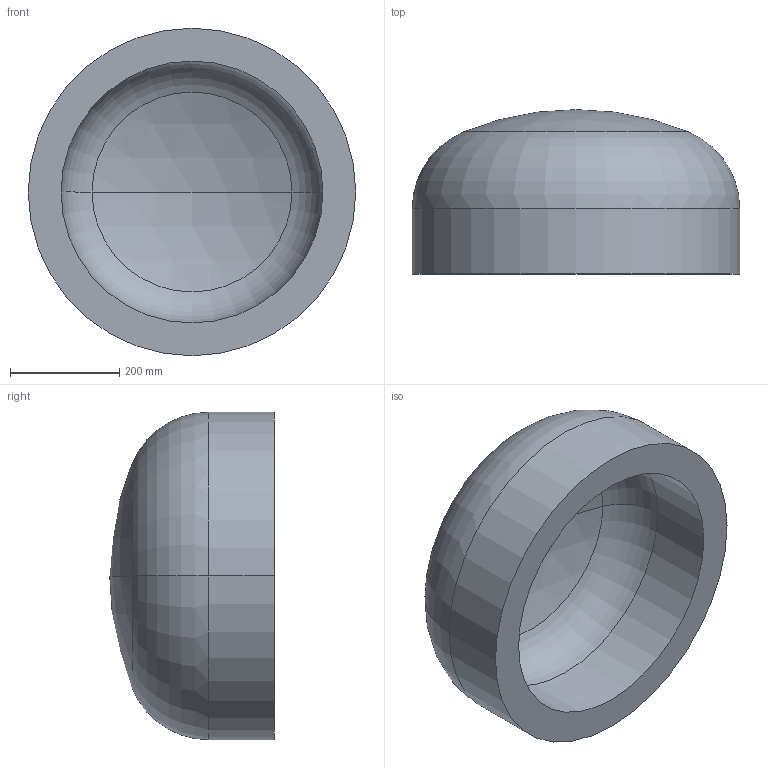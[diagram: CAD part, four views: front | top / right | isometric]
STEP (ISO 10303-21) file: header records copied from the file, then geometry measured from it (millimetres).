
FILE_DESCRIPTION (( 'STEP AP203' ), '1' );
FILE_NAME ('DIN 28013 Korbbogenform_-_Boden DIN 28013 - 600 x 120 - I - s=60.step', '2016-07-01T08:02:05', ( '' ), ( '' ), 'SwSTEP 2.0', 'SolidWorks 2013', '' );
FILE_SCHEMA (( 'CONFIG_CONTROL_DESIGN' ));
Length unit declared in the file: millimetre
Products named in the file (1): DIN 28013 Korbbogenform_-_Boden DIN 28013 - 600 x 120 - I - s=60
Bounding box: 600 x 301.34 x 600 mm (x, y, z)
Volume: 32956629.5 mm3; surface area: 1207881.6 mm2
Topology: 1 solids, 1 shells, 13 faces, 24 edges, 14 vertices
Faces by surface type: torus 4, cylinder 4, sphere 4, plane 1
Entity records: 407 total; most frequent: DIRECTION 72, CARTESIAN_POINT 52, ORIENTED_EDGE 48, AXIS2_PLACEMENT_3D 34, EDGE_CURVE 24, CIRCLE 20, VERTEX_POINT 14, EDGE_LOOP 14
